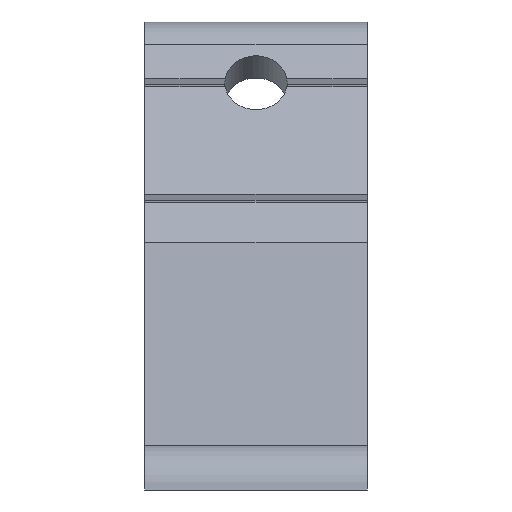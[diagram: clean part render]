
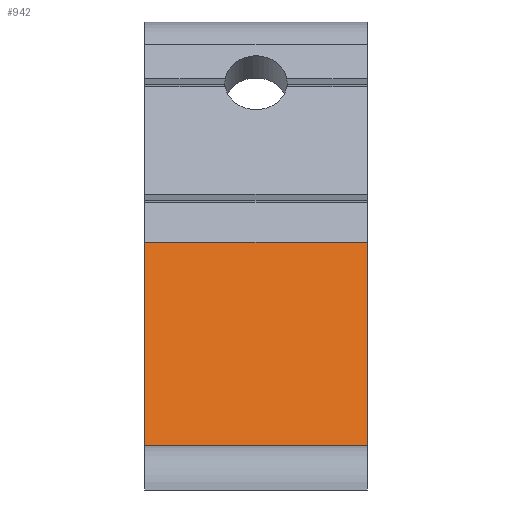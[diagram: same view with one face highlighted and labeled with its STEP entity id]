
A CAD part, left-side view. The second image highlights one B-rep face of the part: STEP entity #942.
In plain terms, the highlighted planar face has unit normal (-0.5, 0, 0.866).
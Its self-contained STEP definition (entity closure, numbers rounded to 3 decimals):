
#78=LINE('',#1424,#188);
#105=LINE('',#1481,#215);
#123=LINE('',#1515,#233);
#130=LINE('',#1530,#240);
#188=VECTOR('',#1133,1000.);
#215=VECTOR('',#1176,1000.);
#233=VECTOR('',#1198,1000.);
#240=VECTOR('',#1217,1000.);
#420=ORIENTED_EDGE('',*,*,#583,.T.);
#421=ORIENTED_EDGE('',*,*,#642,.F.);
#422=ORIENTED_EDGE('',*,*,#614,.F.);
#423=ORIENTED_EDGE('',*,*,#633,.T.);
#583=EDGE_CURVE('',#720,#719,#78,.T.);
#614=EDGE_CURVE('',#741,#742,#105,.T.);
#633=EDGE_CURVE('',#741,#720,#123,.T.);
#642=EDGE_CURVE('',#742,#719,#130,.T.);
#719=VERTEX_POINT('',#1423);
#720=VERTEX_POINT('',#1425);
#741=VERTEX_POINT('',#1480);
#742=VERTEX_POINT('',#1482);
#802=EDGE_LOOP('',(#420,#421,#422,#423));
#852=FACE_BOUND('',#802,.T.);
#900=PLANE('',#1021);
#942=ADVANCED_FACE('',(#852),#900,.F.);
#1021=AXIS2_PLACEMENT_3D('',#1551,#1242,#1243);
#1133=DIRECTION('',(-0.866,0.,-0.5));
#1176=DIRECTION('',(-0.866,0.,-0.5));
#1198=DIRECTION('',(0.,1.,0.));
#1217=DIRECTION('',(0.,1.,0.));
#1242=DIRECTION('',(0.5,0.,-0.866));
#1243=DIRECTION('',(-0.866,0.,-0.5));
#1423=CARTESIAN_POINT('',(-29.268,12.5,5.));
#1424=CARTESIAN_POINT('',(10.304,12.5,27.847));
#1425=CARTESIAN_POINT('',(10.304,12.5,27.847));
#1480=CARTESIAN_POINT('',(10.304,-12.5,27.847));
#1481=CARTESIAN_POINT('',(10.304,-12.5,27.847));
#1482=CARTESIAN_POINT('',(-29.268,-12.5,5.));
#1515=CARTESIAN_POINT('',(10.304,-12.5,27.847));
#1530=CARTESIAN_POINT('',(-29.268,-12.5,5.));
#1551=CARTESIAN_POINT('',(10.304,-12.5,27.847));
